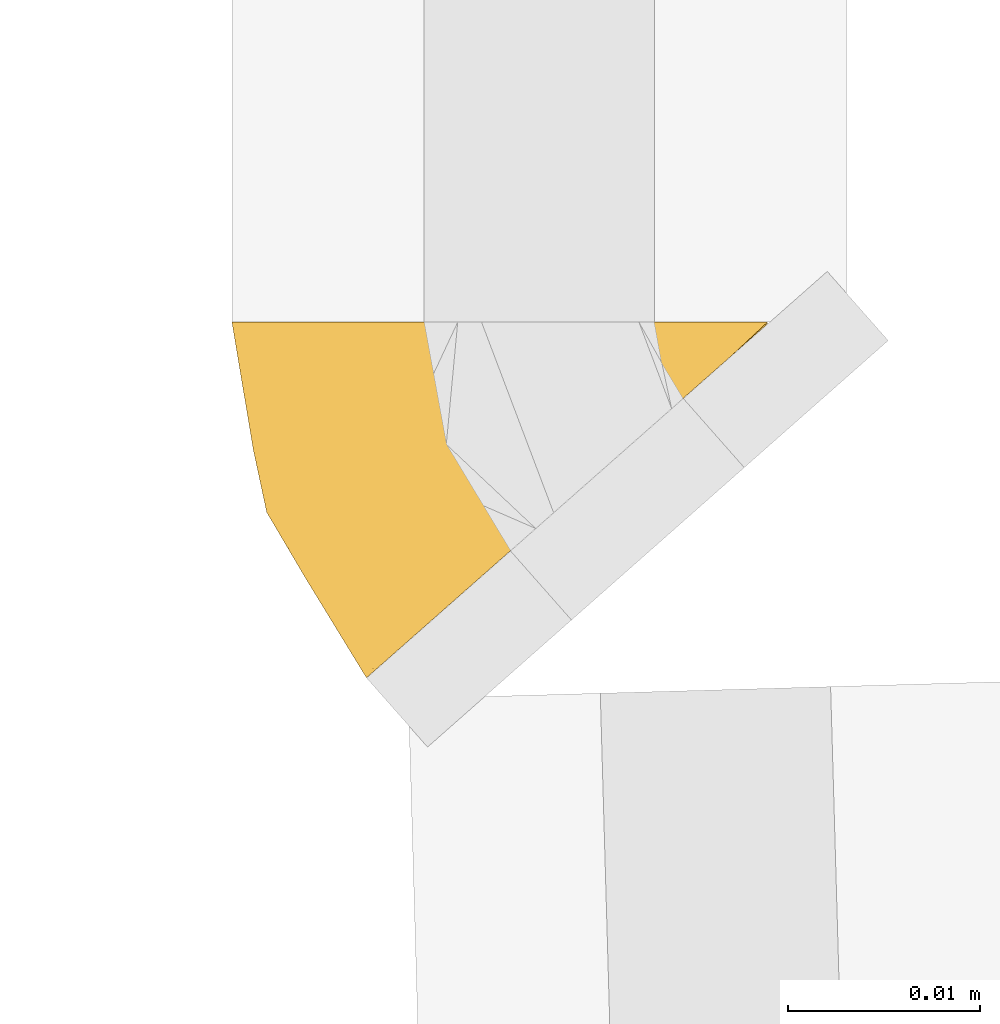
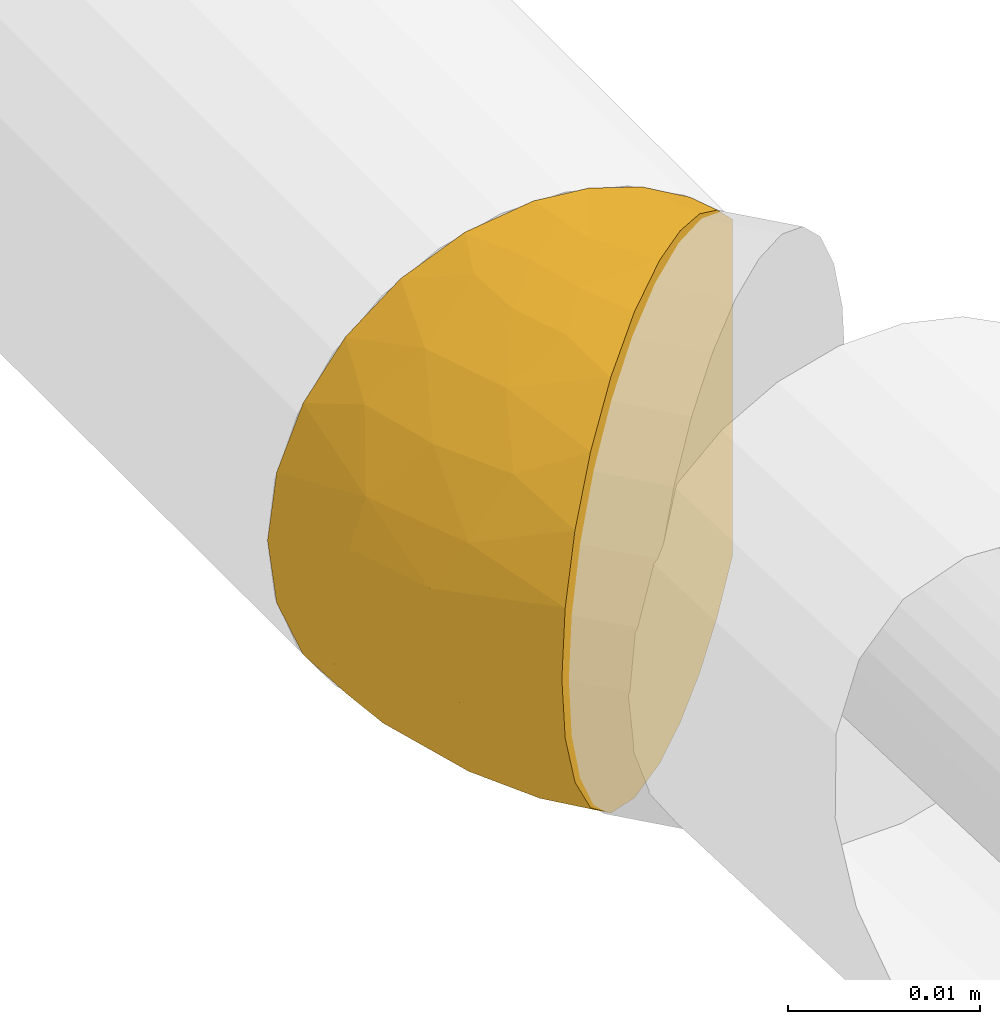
# One storey, part 20 of 108: 1 covering.
"""IFC2X3 building model written with IfcOpenShell, lengths in millimetres."""

from ifc_helpers import new_model, entity, si_unit, converted_unit, derived_unit, direction, frame, origin_with_axes, place, context, subcontext, project, spatial, open_shell, surface_model, source, transform, mapped, element, save


model = new_model("IFC2X3")

# Units and contexts
model_context = context("Model", 3, precision=0.01, world=frame((0.0, 4.29681676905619e-09, 0.0)), true_north=direction((4.01073788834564e-13, 1.0)))
plan_context = context("Plan", 3, precision=0.01, world=frame((0.0, 4.29681676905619e-09, 0.0)), true_north=direction((4.01073788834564e-13, 1.0)))
body_context = subcontext(model_context, "Body", "Model", "MODEL_VIEW")
ifc_project = project(units=[converted_unit("PLANEANGLEUNIT", "DEGREE", entity("IfcPositiveLengthMeasure", 0.0174532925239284), si_unit("PLANEANGLEUNIT", "RADIAN"), dimensions=[0, 0, 0, 0, 0, 0, 0]), si_unit("AREAUNIT", "SQUARE_METRE"), si_unit("LENGTHUNIT", "METRE", prefix="MILLI"), si_unit("MASSUNIT", "GRAM", prefix="KILO"), si_unit("POWERUNIT", "WATT"), si_unit("PRESSUREUNIT", "PASCAL", prefix="KILO"), si_unit("FORCEUNIT", "NEWTON", prefix="KILO"), si_unit("ELECTRICVOLTAGEUNIT", "VOLT"), si_unit("ELECTRICCURRENTUNIT", "AMPERE"), si_unit("THERMODYNAMICTEMPERATUREUNIT", "DEGREE_CELSIUS"), si_unit("TIMEUNIT", "SECOND"), si_unit("VOLUMEUNIT", "CUBIC_METRE"), derived_unit("LINEARVELOCITYUNIT", [(si_unit("LENGTHUNIT", "METRE"), 1), (si_unit("TIMEUNIT", "SECOND"), -1)]), derived_unit("VOLUMETRICFLOWRATEUNIT", [(si_unit("VOLUMEUNIT", "CUBIC_METRE"), 1), (si_unit("TIMEUNIT", "SECOND"), -1)]), derived_unit("THERMALTRANSMITTANCEUNIT", [(si_unit("POWERUNIT", "WATT"), 1), (si_unit("THERMODYNAMICTEMPERATUREUNIT", "KELVIN"), -1), (si_unit("AREAUNIT", "SQUARE_METRE"), -1)]), derived_unit("SOUNDPRESSUREUNIT", [(si_unit("PRESSUREUNIT", "PASCAL"), 1)])], contexts=[model_context, plan_context])

# Site, building, storey
site_placement = place(None, frame((0.0, -4.29681676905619e-09, 0.0), z_axis=(0.0, 0.0, 1.0), x_axis=(1.0, 0.0, 0.0)))
site = spatial("IfcSite", under=ifc_project, at=site_placement, CompositionType="ELEMENT")
building_placement = place(site_placement, frame((0.0, 4.29681676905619e-09, 0.0), z_axis=(0.0, 0.0, 1.0), x_axis=(1.0, 0.0, 0.0)))
building = spatial("IfcBuilding", under=site, at=building_placement, Name="mc-building", CompositionType="ELEMENT")
storey_placement = place(building_placement, frame((0.0, 0.0, 210200.0), z_axis=(0.0, 0.0, 1.0), x_axis=(1.0, 0.0, 0.0)))
storey = spatial("IfcBuildingStorey", under=building, at=storey_placement, Name="Nivå F - 0,7 m", CompositionType="ELEMENT", Elevation=210200.0)

# Covering
shared_shape = source(origin_with_axes(), body_context, "Body", "SurfaceModel", [
    surface_model("IfcShellBasedSurfaceModel", [(-4.53725, 11.89357, 10.70247), (-4.53725, 11.89357, -10.70247), (-4.53725, 9.40752, -12.94213), (-4.53725, 3.32778, -15.65011), (-4.53725, 6.51001, -14.61574), (-4.53725, 0.0, -16.0), (-4.53725, 9.40752, 12.94213), (-4.53725, 6.51001, 14.61574), (-4.53725, 0.0, 16.0), (-4.53725, 3.32778, 15.65011), (-4.53725, -4.1411, 15.45481), (-4.53725, -8.0, 13.85641), (-4.53725, -4.1411, -15.45481), (-4.53725, -8.0, -13.85641), (-4.53725, -13.85641, -8.0), (-4.53725, -11.31371, -11.31371), (-4.53725, -15.45481, 4.1411), (-4.53725, -15.45481, -4.1411), (-4.53725, -13.85641, 8.0), (-4.53725, -11.31371, 11.31371), (-4.53725, -16.0, 0.0), (-2.82201, 10.05606, -12.94213), (-4.46684, 11.9202, -10.70247), (-4.46684, 11.9202, 10.70247), (6.14205, -0.10321, 15.45481), (-0.90496, 7.8834, -14.61574), (1.20048, 5.49724, -15.65011), (-0.90496, 7.8834, 14.61574), (-2.82201, 10.05606, 12.94213), (1.20048, 5.49724, 15.65011), (3.40221, 3.00195, 16.0), (8.69518, -2.99676, 13.85641), (3.40221, 3.00195, -16.0), (12.5699, -7.38811, -8.0), (8.69518, -2.99676, -13.85641), (6.14205, -0.10321, -15.45481), (12.5699, -7.38811, 8.0), (10.8876, -5.4815, -11.31371), (13.62744, -8.58666, -4.1411), (13.62744, -8.58666, 4.1411), (10.8876, -5.4815, 11.31371), (13.98815, -8.99546, 0.0), (-0.29324, 0.77555, -16.0), (4.24022, -3.85549, -14.78207), (7.11994, -6.35062, -12.69365), (-1.13709, -9.47264, -12.69365), (0.78853, -12.1125, -9.74018), (3.15155, -8.33514, -12.69365), (6.67112, -10.00338, -9.74018), (-0.02117, -5.55123, -14.78207), (9.58201, -10.60318, -6.43104), (9.04798, -11.97177, 0.0), (8.80606, -12.1641, -3.54035), (-0.93682, -2.66582, -15.69656), (1.87295, -1.66284, -15.69842), (1.13626, -14.96323, 0.0), (3.23006, -14.58095, -3.12144), (4.93471, -13.05117, -6.12293), (0.0575, -14.61277, -5.55022), (1.28499, 1.72638, -16.0), (5.36545, -14.19039, 0.0), (-2.10575, 0.44433, -16.0), (-1.55134, -5.29435, 15.0065), (0.15155, -9.22853, 12.69365), (1.87225, -4.95167, 14.78207), (2.06613, -14.89785, 3.10131), (7.22754, -13.07573, 3.09185), (-0.67517, -12.38977, 9.74018), (2.13661, -13.93721, 6.12293), (4.1961, -11.09773, 9.74018), (8.4341, -11.43125, 6.12293), (8.70361, -8.84361, 9.74018), (5.33055, -7.37168, 12.69365), (-0.29593, -2.51445, 15.69257), (2.97485, -1.60407, 15.6034), (1.28499, 1.72638, 16.0), (5.22734, -3.63189, 14.65066), (-2.10575, 0.44433, 16.0), (-0.29324, 0.77555, 16.0), (-3.92027, 11.23261, 11.50809)], [open_shell([[[0, 1, 2]], [[2, 3, 0]], [[3, 2, 4]], [[5, 0, 3]], [[6, 0, 7]], [[7, 8, 9]], [[7, 0, 5]], [[7, 10, 8]], [[7, 5, 11]], [[12, 13, 14]], [[12, 14, 11]], [[14, 13, 15]], [[16, 14, 17]], [[11, 18, 19]], [[10, 7, 11]], [[14, 16, 18]], [[11, 14, 18]], [[20, 16, 17]], [[11, 5, 12]], [[21, 22, 23]], [[24, 21, 23]], [[25, 21, 26]], [[24, 26, 21]], [[27, 23, 28]], [[29, 30, 27]], [[23, 27, 24]], [[30, 24, 27]], [[26, 31, 32]], [[33, 34, 35]], [[33, 32, 36]], [[37, 34, 33]], [[38, 33, 39]], [[40, 36, 31]], [[31, 26, 24]], [[36, 39, 33]], [[31, 36, 32]], [[38, 39, 41]], [[33, 35, 32]], [[26, 3, 4]], [[5, 3, 42]], [[26, 42, 3]], [[4, 2, 25]], [[21, 25, 2]], [[32, 42, 26]], [[4, 25, 26]], [[22, 21, 2]], [[43, 34, 44]], [[13, 45, 15]], [[15, 46, 14]], [[46, 47, 48]], [[45, 49, 47]], [[50, 48, 33]], [[41, 51, 52]], [[49, 53, 54]], [[55, 17, 56]], [[57, 56, 58]], [[49, 13, 12]], [[54, 35, 43]], [[53, 42, 54]], [[5, 53, 12]], [[37, 33, 48]], [[47, 49, 43]], [[46, 15, 45]], [[35, 59, 32]], [[57, 46, 48]], [[57, 58, 46]], [[37, 44, 34]], [[48, 47, 44]], [[60, 56, 52]], [[56, 57, 52]], [[59, 54, 42]], [[52, 50, 38]], [[49, 54, 43]], [[34, 43, 35]], [[5, 61, 53]], [[35, 54, 59]], [[56, 60, 55]], [[55, 20, 17]], [[58, 56, 17]], [[57, 50, 52]], [[41, 52, 38]], [[60, 52, 51]], [[17, 14, 58]], [[46, 58, 14]], [[48, 50, 57]], [[38, 50, 33]], [[49, 45, 13]], [[46, 45, 47]], [[48, 44, 37]], [[43, 44, 47]], [[12, 53, 49]], [[42, 53, 61]], [[62, 63, 64]], [[65, 60, 66]], [[18, 67, 19]], [[68, 69, 67]], [[70, 36, 71]], [[36, 40, 71]], [[11, 19, 63]], [[66, 39, 70]], [[63, 69, 72]], [[73, 64, 74]], [[51, 66, 60]], [[30, 75, 74]], [[39, 36, 70]], [[20, 55, 65]], [[69, 71, 72]], [[18, 16, 68]], [[74, 76, 24]], [[68, 70, 69]], [[40, 31, 72]], [[76, 72, 31]], [[77, 10, 73]], [[64, 73, 62]], [[73, 74, 78]], [[64, 63, 72]], [[68, 65, 66]], [[63, 19, 67]], [[39, 66, 51]], [[51, 41, 39]], [[68, 66, 70]], [[20, 65, 16]], [[73, 78, 77]], [[77, 8, 10]], [[62, 73, 10]], [[64, 76, 74]], [[30, 74, 24]], [[78, 74, 75]], [[10, 11, 62]], [[63, 62, 11]], [[72, 76, 64]], [[24, 76, 31]], [[68, 67, 18]], [[63, 67, 69]], [[72, 71, 40]], [[70, 71, 69]], [[16, 65, 68]], [[60, 65, 55]], [[7, 9, 27]], [[28, 6, 7]], [[0, 6, 79]], [[8, 78, 9]], [[78, 30, 29]], [[28, 7, 27]], [[9, 29, 27]], [[9, 78, 29]], [[6, 28, 79]]])]),
])
covering_placement = place(storey_placement, frame((341524.45116, 462188.75941, -981.678400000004), z_axis=(0.0, 0.0, 1.0), x_axis=(0.0, -1.0, 0.0)))
element("IfcCovering", 1, at=covering_placement, inside=storey, Name="BI10T - Cellegummi 18-32 mm kalde rør", PredefinedType="INSULATION", context=body_context, shape_type="MappedRepresentation", body=[
    mapped(shared_shape, transform((0.0, 0.0, 0.0), scale=1.0)),
])

save(model, "model.ifc")
